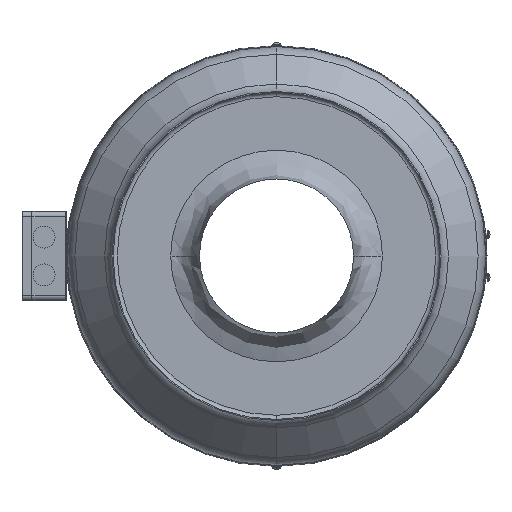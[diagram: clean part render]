
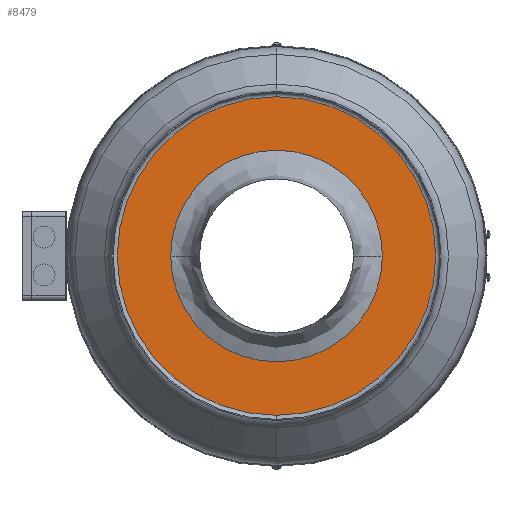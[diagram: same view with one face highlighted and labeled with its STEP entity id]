
A CAD part, left-side view. The second image highlights one B-rep face of the part: STEP entity #8479.
In plain terms, the highlighted planar face has unit normal (-1, 0, 0).
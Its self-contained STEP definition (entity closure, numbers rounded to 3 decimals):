
#186 = DIRECTION ( 'NONE',  ( 0., 0., 1. ) ) ;
#278 = CARTESIAN_POINT ( 'NONE',  ( 139., 0., 0. ) ) ;
#480 = DIRECTION ( 'NONE',  ( -1., 0., 0. ) ) ;
#823 = CIRCLE ( 'NONE', #6662, 101. ) ;
#1151 = CIRCLE ( 'NONE', #6626, 152. ) ;
#1233 = FACE_OUTER_BOUND ( 'NONE', #7527, .T. ) ;
#1248 = CIRCLE ( 'NONE', #6704, 101. ) ;
#1415 = FACE_BOUND ( 'NONE', #7578, .T. ) ;
#1664 = CARTESIAN_POINT ( 'NONE',  ( 139., 152., 0. ) ) ;
#1665 = PLANE ( 'NONE',  #6502 ) ;
#1740 = DIRECTION ( 'NONE',  ( 1., 0., 0. ) ) ;
#2091 = DIRECTION ( 'NONE',  ( 0., 0., -1. ) ) ;
#2484 = CARTESIAN_POINT ( 'NONE',  ( 139., 0., 101. ) ) ;
#2715 = CARTESIAN_POINT ( 'NONE',  ( 139., 0., -152. ) ) ;
#2721 = CARTESIAN_POINT ( 'NONE',  ( 139., 0., 152. ) ) ;
#2959 = CARTESIAN_POINT ( 'NONE',  ( 139., 0., -101. ) ) ;
#4111 = ORIENTED_EDGE ( 'NONE', *, *, #5421, .T. ) ;
#4182 = ORIENTED_EDGE ( 'NONE', *, *, #9266, .T. ) ;
#4360 = ORIENTED_EDGE ( 'NONE', *, *, #5375, .F. ) ;
#4468 = ORIENTED_EDGE ( 'NONE', *, *, #5314, .F. ) ;
#5314 = EDGE_CURVE ( 'NONE', #8303, #8173, #1248, .T. ) ;
#5375 = EDGE_CURVE ( 'NONE', #8173, #8303, #823, .T. ) ;
#5421 = EDGE_CURVE ( 'NONE', #7746, #7738, #1151, .T. ) ;
#6098 = CARTESIAN_POINT ( 'NONE',  ( 139., 0., 0. ) ) ;
#6100 = DIRECTION ( 'NONE',  ( -1., 0., 0. ) ) ;
#6220 = DIRECTION ( 'NONE',  ( 0., 0., 1. ) ) ;
#6502 = AXIS2_PLACEMENT_3D ( 'NONE', #1664, #1740, #2091 ) ;
#6626 = AXIS2_PLACEMENT_3D ( 'NONE', #8972, #8843, #8902 ) ;
#6662 = AXIS2_PLACEMENT_3D ( 'NONE', #8982, #8785, #8813 ) ;
#6704 = AXIS2_PLACEMENT_3D ( 'NONE', #6098, #6100, #6220 ) ;
#6783 = AXIS2_PLACEMENT_3D ( 'NONE', #278, #480, #186 ) ;
#7275 = CIRCLE ( 'NONE', #6783, 152. ) ;
#7527 = EDGE_LOOP ( 'NONE', ( #4111, #4182 ) ) ;
#7578 = EDGE_LOOP ( 'NONE', ( #4360, #4468 ) ) ;
#7738 = VERTEX_POINT ( 'NONE', #2715 ) ;
#7746 = VERTEX_POINT ( 'NONE', #2721 ) ;
#8173 = VERTEX_POINT ( 'NONE', #2484 ) ;
#8303 = VERTEX_POINT ( 'NONE', #2959 ) ;
#8479 = ADVANCED_FACE ( 'NONE', ( #1415, #1233 ), #1665, .F. ) ;
#8785 = DIRECTION ( 'NONE',  ( -1., 0., 0. ) ) ;
#8813 = DIRECTION ( 'NONE',  ( 0., 0., 1. ) ) ;
#8843 = DIRECTION ( 'NONE',  ( -1., 0., 0. ) ) ;
#8902 = DIRECTION ( 'NONE',  ( 0., 0., 1. ) ) ;
#8972 = CARTESIAN_POINT ( 'NONE',  ( 139., 0., 0. ) ) ;
#8982 = CARTESIAN_POINT ( 'NONE',  ( 139., 0., 0. ) ) ;
#9266 = EDGE_CURVE ( 'NONE', #7738, #7746, #7275, .T. ) ;
